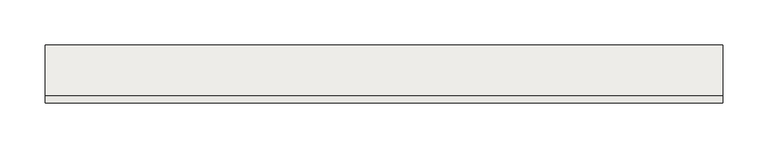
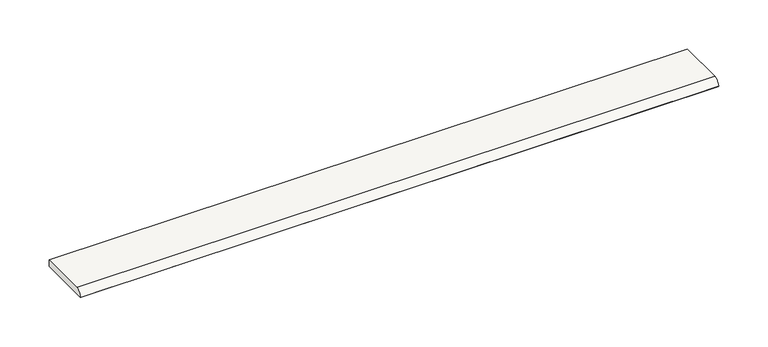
"""IFC4 building model written with IfcOpenShell, lengths in millimetres: slab geometry, ROSA GRES_013 : Pieza 013_Aqua_Marino_Liso."""

from ifc_helpers import new_model, si_unit, point, frame, frame_2d, origin, place, context, project, spatial, polyline, circle_curve, trimmed, segment, composite_curve, outline, extrude, source, transform, mapped, element, save


def slab_9dd5c64a(model_context):
    return source(origin(), model_context, "Body", "SweptSolid", [
        extrude(outline(composite_curve([segment(polyline([(0.7830162, 0.0), (0.0, 0.7830162)]), True, "CONTINUOUS"), segment(trimmed(circle_curve(frame_2d((9.4741171, -1.740645)), 9.8044766), [point((0.0, 0.7830162))], [point((8.3571586, 8.0))], False, "CARTESIAN"), True, "CONTINUOUS"), segment(polyline([(8.3571586, 8.0), (64.1, 8.0), (64.1, 0.0), (0.7830162, 0.0)]), True, "CONTINUOUS")], self_intersect=False)), frame((0.0, 0.0, 0.0), z_axis=(1.0, 0.0, 0.0), x_axis=(0.0, 1.0, 0.0)), (0.0, 0.0, 1.0), 749.2169838),
    ])


if __name__ == "__main__":
    model = new_model("IFC4")
    model_context = context("Model", 3, world=origin())
    ifc_project = project(units=[si_unit("LENGTHUNIT", "METRE", prefix="MILLI")], contexts=[model_context])
    site = spatial("IfcSite", under=ifc_project)
    building = spatial("IfcBuilding", under=site)
    placement = place(None, origin())
    slab_shape = slab_9dd5c64a(model_context)
    element("IfcSlab", 1, ObjectType="ROSA GRES_013 : Pieza 013_Aqua_Marino_Liso", at=placement, inside=building, context=model_context, shape_type="MappedRepresentation", body=[
        mapped(slab_shape, transform((0.0, 0.0, 0.0), x_axis=(1.0, 0.0, 0.0), y_axis=(0.0, 1.0, 0.0), z_axis=(0.0, 0.0, 1.0))),
    ])
    save(model, "model.ifc")
